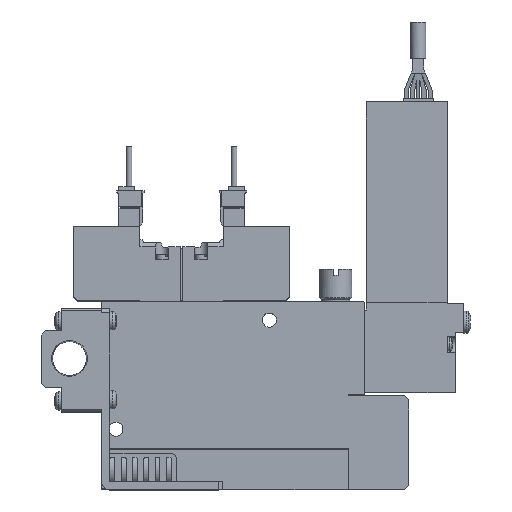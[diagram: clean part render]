
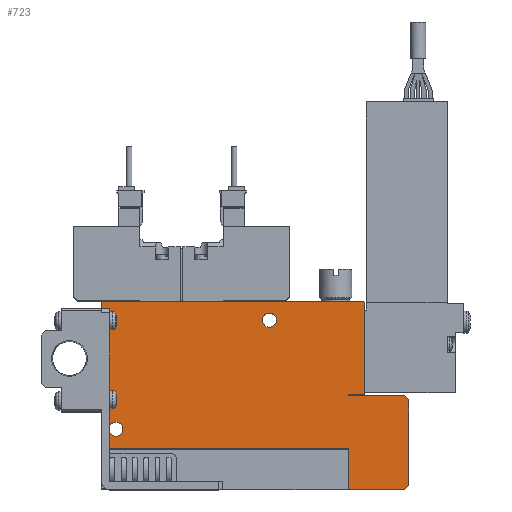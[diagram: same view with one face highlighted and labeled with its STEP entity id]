
A CAD part, top view. The second image highlights one B-rep face of the part: STEP entity #723.
In plain terms, the highlighted planar face has unit normal (0, 0, 1).
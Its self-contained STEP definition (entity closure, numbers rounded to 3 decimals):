
#723=ADVANCED_FACE('',(#1775,#1776,#1777),#1778,.F.);
#1775=FACE_OUTER_BOUND('',#3182,.T.);
#1776=FACE_BOUND('',#3183,.T.);
#1777=FACE_BOUND('',#3184,.T.);
#1778=PLANE('',#3185);
#3182=EDGE_LOOP('',(#6782,#6783,#6784,#6785,#6786,#6787,#6788,#6789,#6790,#6791,#6792,#6793,#6794,#6795));
#3183=EDGE_LOOP('',(#6796));
#3184=EDGE_LOOP('',(#6797));
#3185=AXIS2_PLACEMENT_3D('',#6798,#6799,#6800);
#6782=ORIENTED_EDGE('',*,*,#9973,.T.);
#6783=ORIENTED_EDGE('',*,*,#9941,.F.);
#6784=ORIENTED_EDGE('',*,*,#9974,.F.);
#6785=ORIENTED_EDGE('',*,*,#9975,.T.);
#6786=ORIENTED_EDGE('',*,*,#9976,.T.);
#6787=ORIENTED_EDGE('',*,*,#9977,.T.);
#6788=ORIENTED_EDGE('',*,*,#9978,.T.);
#6789=ORIENTED_EDGE('',*,*,#9979,.T.);
#6790=ORIENTED_EDGE('',*,*,#9980,.T.);
#6791=ORIENTED_EDGE('',*,*,#9981,.T.);
#6792=ORIENTED_EDGE('',*,*,#9982,.T.);
#6793=ORIENTED_EDGE('',*,*,#9983,.T.);
#6794=ORIENTED_EDGE('',*,*,#9962,.T.);
#6795=ORIENTED_EDGE('',*,*,#9984,.T.);
#6796=ORIENTED_EDGE('',*,*,#9985,.F.);
#6797=ORIENTED_EDGE('',*,*,#9854,.F.);
#6798=CARTESIAN_POINT('',(0.0,0.0,5.0));
#6799=DIRECTION('',(0.0,0.0,-1.0));
#6800=DIRECTION('',(0.0,-1.0,0.0));
#9854=EDGE_CURVE('',#12081,#12081,#12082,.T.);
#9941=EDGE_CURVE('',#12245,#12246,#12247,.T.);
#9962=EDGE_CURVE('',#12287,#12285,#12288,.T.);
#9973=EDGE_CURVE('',#12308,#12246,#12309,.T.);
#9974=EDGE_CURVE('',#12310,#12245,#12311,.T.);
#9975=EDGE_CURVE('',#12310,#12312,#12313,.T.);
#9976=EDGE_CURVE('',#12312,#12314,#12315,.T.);
#9977=EDGE_CURVE('',#12314,#12316,#12317,.T.);
#9978=EDGE_CURVE('',#12316,#12318,#12319,.T.);
#9979=EDGE_CURVE('',#12318,#12320,#12321,.T.);
#9980=EDGE_CURVE('',#12320,#12322,#12323,.T.);
#9981=EDGE_CURVE('',#12322,#12324,#12325,.T.);
#9982=EDGE_CURVE('',#12324,#12326,#12327,.T.);
#9983=EDGE_CURVE('',#12326,#12287,#12328,.T.);
#9984=EDGE_CURVE('',#12285,#12308,#12329,.T.);
#9985=EDGE_CURVE('',#12330,#12330,#12331,.T.);
#12081=VERTEX_POINT('',#15746);
#12082=CIRCLE('',#15747,1.75);
#12245=VERTEX_POINT('',#16045);
#12246=VERTEX_POINT('',#16046);
#12247=LINE('',#16047,#16048);
#12285=VERTEX_POINT('',#16105);
#12287=VERTEX_POINT('',#16108);
#12288=LINE('',#16109,#16110);
#12308=VERTEX_POINT('',#16139);
#12309=LINE('',#16140,#16141);
#12310=VERTEX_POINT('',#16142);
#12311=LINE('',#16143,#16144);
#12312=VERTEX_POINT('',#16145);
#12313=LINE('',#16146,#16147);
#12314=VERTEX_POINT('',#16148);
#12315=LINE('',#16149,#16150);
#12316=VERTEX_POINT('',#16151);
#12317=LINE('',#16152,#16153);
#12318=VERTEX_POINT('',#16154);
#12319=LINE('',#16155,#16156);
#12320=VERTEX_POINT('',#16157);
#12321=LINE('',#16158,#16159);
#12322=VERTEX_POINT('',#16160);
#12323=LINE('',#16161,#16162);
#12324=VERTEX_POINT('',#16163);
#12325=LINE('',#16164,#16165);
#12326=VERTEX_POINT('',#16166);
#12327=LINE('',#16167,#16168);
#12328=LINE('',#16169,#16170);
#12329=LINE('',#16171,#16172);
#12330=VERTEX_POINT('',#16173);
#12331=CIRCLE('',#16174,1.75);
#15746=CARTESIAN_POINT('',(43.25,42.0,5.0));
#15747=AXIS2_PLACEMENT_3D('',#19354,#19355,#19356);
#16045=CARTESIAN_POINT('',(61.1,10.1,5.0));
#16046=CARTESIAN_POINT('',(0.0,10.1,5.0));
#16047=CARTESIAN_POINT('',(61.1,10.1,5.0));
#16048=VECTOR('',#19488,1.0);
#16105=CARTESIAN_POINT('',(0.2,46.6,5.0));
#16108=CARTESIAN_POINT('',(64.8,46.6,5.0));
#16109=CARTESIAN_POINT('',(64.8,46.6,5.0));
#16110=VECTOR('',#19509,1.0);
#16139=CARTESIAN_POINT('',(0.0,46.4,5.0));
#16140=CARTESIAN_POINT('',(0.0,46.4,5.0));
#16141=VECTOR('',#19522,1.0);
#16142=CARTESIAN_POINT('',(61.1,0.0,5.0));
#16143=CARTESIAN_POINT('',(61.1,0.0,5.0));
#16144=VECTOR('',#19523,1.0);
#16145=CARTESIAN_POINT('',(75.0,0.0,5.0));
#16146=CARTESIAN_POINT('',(0.0,0.0,5.0));
#16147=VECTOR('',#19524,1.0);
#16148=CARTESIAN_POINT('',(76.0,1.0,5.0));
#16149=CARTESIAN_POINT('',(75.0,0.0,5.0));
#16150=VECTOR('',#19525,1.0);
#16151=CARTESIAN_POINT('',(76.0,22.25,5.0));
#16152=CARTESIAN_POINT('',(76.0,1.0,5.0));
#16153=VECTOR('',#19526,1.0);
#16154=CARTESIAN_POINT('',(75.0,23.25,5.0));
#16155=CARTESIAN_POINT('',(76.0,22.25,5.0));
#16156=VECTOR('',#19527,1.0);
#16157=CARTESIAN_POINT('',(61.0,23.25,5.0));
#16158=CARTESIAN_POINT('',(75.0,23.25,5.0));
#16159=VECTOR('',#19528,1.0);
#16160=CARTESIAN_POINT('',(61.0,23.5,5.0));
#16161=CARTESIAN_POINT('',(61.0,23.25,5.0));
#16162=VECTOR('',#19529,1.0);
#16163=CARTESIAN_POINT('',(65.0,23.5,5.0));
#16164=CARTESIAN_POINT('',(61.0,23.5,5.0));
#16165=VECTOR('',#19530,1.0);
#16166=CARTESIAN_POINT('',(65.0,46.4,5.0));
#16167=CARTESIAN_POINT('',(65.0,23.5,5.0));
#16168=VECTOR('',#19531,1.0);
#16169=CARTESIAN_POINT('',(65.0,46.4,5.0));
#16170=VECTOR('',#19532,1.0);
#16171=CARTESIAN_POINT('',(0.2,46.6,5.0));
#16172=VECTOR('',#19533,1.0);
#16173=CARTESIAN_POINT('',(5.25,15.0,5.0));
#16174=AXIS2_PLACEMENT_3D('',#19534,#19535,#19536);
#19354=CARTESIAN_POINT('',(41.5,42.0,5.0));
#19355=DIRECTION('',(0.0,0.0,1.0));
#19356=DIRECTION('',(1.0,0.0,0.0));
#19488=DIRECTION('',(-1.0,0.0,0.0));
#19509=DIRECTION('',(-1.0,0.0,0.0));
#19522=DIRECTION('',(0.0,-1.0,0.0));
#19523=DIRECTION('',(0.0,1.0,0.0));
#19524=DIRECTION('',(1.0,0.0,0.0));
#19525=DIRECTION('',(0.707,0.707,0.0));
#19526=DIRECTION('',(0.0,1.0,0.0));
#19527=DIRECTION('',(-0.707,0.707,0.0));
#19528=DIRECTION('',(-1.0,0.0,0.0));
#19529=DIRECTION('',(0.0,1.0,0.0));
#19530=DIRECTION('',(1.0,0.,0.0));
#19531=DIRECTION('',(0.0,1.0,0.0));
#19532=DIRECTION('',(-0.707,0.707,0.0));
#19533=DIRECTION('',(-0.707,-0.707,0.0));
#19534=CARTESIAN_POINT('',(3.5,15.0,5.0));
#19535=DIRECTION('',(0.0,0.0,1.0));
#19536=DIRECTION('',(1.0,0.0,0.0));
